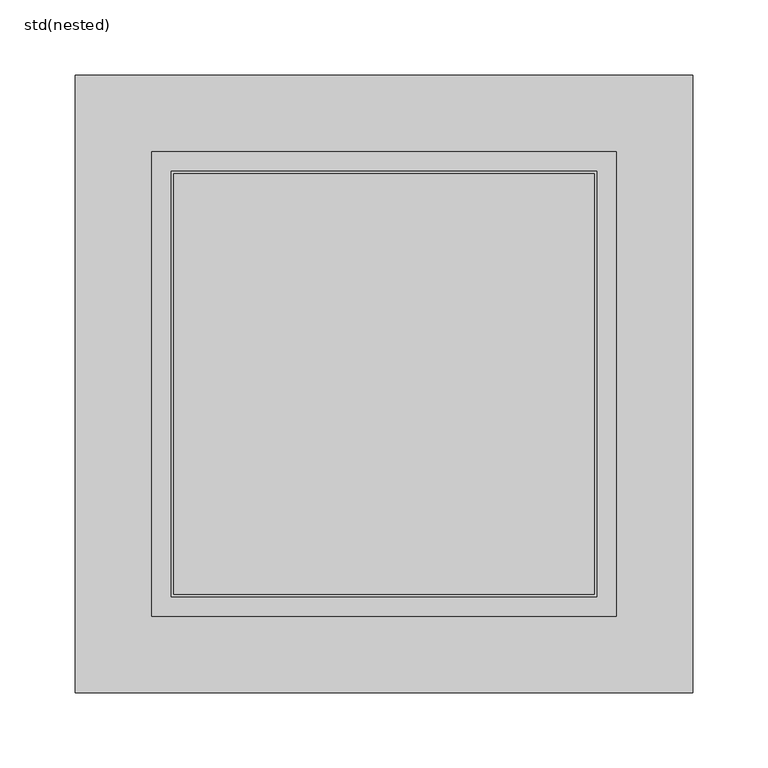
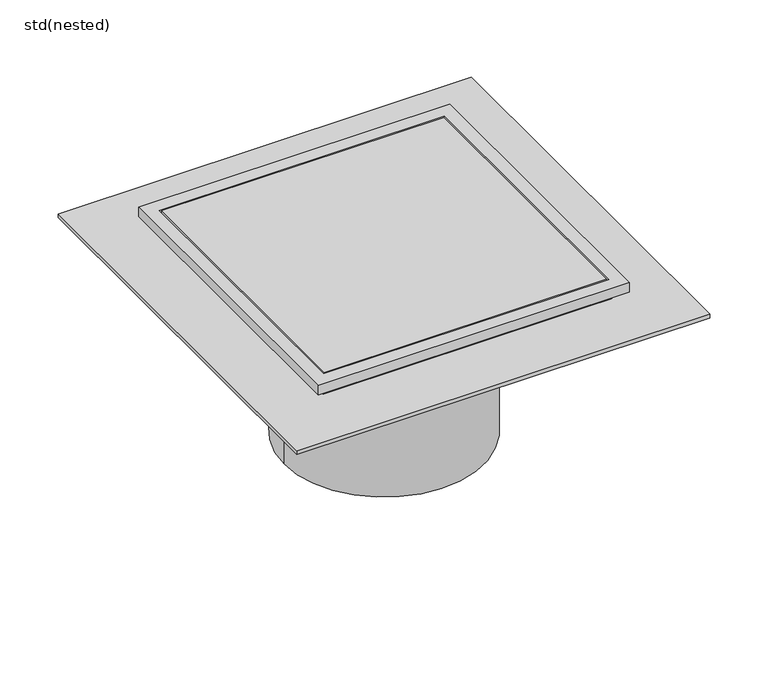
"""IFC4 building model written with IfcOpenShell, lengths in millimetres: sanitary terminal geometry, ZZZ_do not use_PF_ST_WPB_sanded flange slotted gratings for Industrial DN150_CR 218_ACO : std(nested)."""

from ifc_helpers import new_model, si_unit, frame, origin, place, context, project, spatial, polyline, circle_curve, outline, extrude, source, transform, mapped, element, save
from ifc_brep_helpers import plane_surface, cylinder_surface, advanced_brep


def std_nested_c7e06109(model_context):
    return source(origin(), model_context, "Body", "SolidModel", [
        extrude(outline(polyline([(204.5, 204.5), (204.5, -204.5), (-204.5, -204.5), (-204.5, 204.5), (204.5, 204.5)])), frame((0.0, 0.0, -24.0), z_axis=(0.0, 0.0, 1.0), x_axis=(1.0, 0.0, 0.0)), (0.0, 0.0, 1.0), 4.0),
        advanced_brep(
        [(-99.0, 0.0, -195.0), (99.0, 0.0, -195.0), (99.0, 0.0, -73.0), (-99.0, 0.0, -73.0), (-121.0, 0.0, -73.0), (121.0, 0.0, -73.0), (121.0, 0.0, -38.0), (-121.0, 0.0, -38.0), (154.0, 154.0, -10.0), (154.0, 154.0, 0.0), (154.0, -154.0, 0.0), (154.0, -154.0, -10.0), (143.0, 143.0, -38.0), (143.0, 143.0, -10.0), (143.0, -143.0, -10.0), (143.0, -143.0, -38.0), (-154.0, -154.0, 0.0), (-154.0, -154.0, -10.0), (-143.0, -143.0, -10.0), (-143.0, -143.0, -38.0), (-154.0, 154.0, 0.0), (-154.0, 154.0, -10.0), (-143.0, 143.0, -10.0), (-143.0, 143.0, -38.0), (141.0, 141.0, 0.0), (141.0, -141.0, 0.0), (-141.0, -141.0, 0.0), (-141.0, 141.0, 0.0), (141.0, 141.0, -36.0), (141.0, -141.0, -36.0), (-141.0, -141.0, -36.0), (-141.0, 141.0, -36.0), (139.5, -139.5, -36.0), (-139.5, -139.5, -36.0), (-139.5, 139.5, -36.0), (139.5, 139.5, -36.0), (-139.5, -139.5, 0.0), (139.5, -139.5, 0.0), (139.5, 139.5, 0.0), (-139.5, 139.5, 0.0)],
        [
            (0, 1, circle_curve(frame((0.0, 0.0, -195.0), z_axis=(0.0, 0.0, -1.0), x_axis=(1.0, 0.0, 0.0)), 99.0)),
            (1, 0, circle_curve(frame((0.0, 0.0, -195.0), z_axis=(0.0, 0.0, -1.0), x_axis=(1.0, 0.0, 0.0)), 99.0)),
            (1, 2),
            (2, 3, circle_curve(frame((0.0, 0.0, -73.0), z_axis=(0.0, 0.0, -1.0), x_axis=(1.0, 0.0, 0.0)), 99.0)),
            (3, 0),
            (3, 2, circle_curve(frame((0.0, 0.0, -73.0), z_axis=(0.0, 0.0, -1.0), x_axis=(1.0, 0.0, 0.0)), 99.0)),
            (4, 5, circle_curve(frame((0.0, 0.0, -73.0), z_axis=(0.0, 0.0, 1.0), x_axis=(1.0, 0.0, 0.0)), 121.0)),
            (5, 6),
            (6, 7, circle_curve(frame((0.0, 0.0, -38.0), z_axis=(0.0, 0.0, -1.0), x_axis=(1.0, 0.0, 0.0)), 121.0)),
            (7, 4),
            (5, 4, circle_curve(frame((0.0, 0.0, -73.0), z_axis=(0.0, 0.0, 1.0), x_axis=(1.0, 0.0, 0.0)), 121.0)),
            (7, 6, circle_curve(frame((0.0, 0.0, -38.0), z_axis=(0.0, 0.0, -1.0), x_axis=(1.0, 0.0, 0.0)), 121.0)),
            (8, 9),
            (9, 10),
            (10, 11),
            (11, 8),
            (12, 13),
            (13, 14),
            (14, 15),
            (15, 12),
            (10, 16),
            (16, 17),
            (17, 11),
            (14, 18),
            (18, 19),
            (19, 15),
            (16, 20),
            (20, 21),
            (21, 17),
            (18, 22),
            (22, 23),
            (23, 19),
            (9, 20),
            (24, 25),
            (25, 26),
            (26, 27),
            (27, 24),
            (8, 21),
            (13, 22),
            (12, 23),
            (24, 28),
            (28, 29),
            (29, 25),
            (29, 30),
            (30, 26),
            (30, 31),
            (31, 27),
            (28, 31),
            (32, 33),
            (33, 34),
            (34, 35),
            (35, 32),
            (36, 37),
            (37, 38),
            (38, 39),
            (39, 36),
            (36, 33),
            (32, 37),
            (35, 38),
            (34, 39),
        ],
        [
            plane_surface(frame((99.0, 0.0, -195.0), z_axis=(0.0, 0.0, -1.0), x_axis=(0.0, -1.0, 0.0))),
            cylinder_surface(frame((0.0, 0.0, -195.0), z_axis=(0.0, 0.0, 1.0), x_axis=(1.0, 0.0, 0.0)), 99.0),
            cylinder_surface(frame((0.0, 0.0, -73.0), z_axis=(0.0, 0.0, 1.0), x_axis=(1.0, 0.0, 0.0)), 121.0),
            plane_surface(frame((154.0, 154.0, 0.0), z_axis=(1.0, 0.0, 0.0), x_axis=(0.0, -1.0, 0.0))),
            plane_surface(frame((143.0, 143.0, -10.0), z_axis=(1.0, 0.0, 0.0), x_axis=(0.0, -1.0, 0.0))),
            plane_surface(frame((154.0, -154.0, 0.0), z_axis=(0.0, -1.0, 0.0), x_axis=(-1.0, 0.0, 0.0))),
            plane_surface(frame((143.0, -143.0, -10.0), z_axis=(0.0, -1.0, 0.0), x_axis=(-1.0, 0.0, 0.0))),
            plane_surface(frame((-154.0, -154.0, 0.0), z_axis=(-1.0, 0.0, 0.0), x_axis=(0.0, 1.0, 0.0))),
            plane_surface(frame((-143.0, -143.0, -10.0), z_axis=(-1.0, 0.0, 0.0), x_axis=(0.0, 1.0, 0.0))),
            plane_surface(frame((-141.0, 141.0, 0.0), z_axis=(0.0, 0.0, 1.0), x_axis=(1.0, 0.0, 0.0))),
            plane_surface(frame((-154.0, 154.0, 0.0), z_axis=(0.0, 1.0, 0.0), x_axis=(1.0, 0.0, 0.0))),
            plane_surface(frame((-154.0, 154.0, -10.0), z_axis=(0.0, 0.0, -1.0), x_axis=(1.0, 0.0, 0.0))),
            plane_surface(frame((-143.0, 143.0, -10.0), z_axis=(0.0, 1.0, 0.0), x_axis=(1.0, 0.0, 0.0))),
            plane_surface(frame((-143.0, 143.0, -38.0), z_axis=(0.0, 0.0, -1.0), x_axis=(1.0, 0.0, 0.0))),
            plane_surface(frame((121.0, 0.0, -73.0), z_axis=(0.0, 0.0, -1.0), x_axis=(0.0, -1.0, 0.0))),
            plane_surface(frame((141.0, 141.0, -36.0), z_axis=(-1.0, 0.0, 0.0), x_axis=(0.0, -1.0, 0.0))),
            plane_surface(frame((141.0, -141.0, -36.0), z_axis=(0.0, 1.0, 0.0), x_axis=(-1.0, 0.0, 0.0))),
            plane_surface(frame((-141.0, -141.0, -36.0), z_axis=(1.0, 0.0, 0.0), x_axis=(0.0, 1.0, 0.0))),
            plane_surface(frame((0.0, 0.0, -36.0), z_axis=(0.0, 0.0, 1.0), x_axis=(1.0, 0.0, 0.0))),
            plane_surface(frame((-141.0, 141.0, -36.0), z_axis=(0.0, -1.0, 0.0), x_axis=(1.0, 0.0, 0.0))),
            plane_surface(frame((139.5, -139.5, 0.0), z_axis=(0.0, 0.0, 1.0), x_axis=(1.0, 0.0, 0.0))),
            plane_surface(frame((-139.5, -139.5, 0.0), z_axis=(0.0, -1.0, 0.0), x_axis=(0.0, 0.0, -1.0))),
            plane_surface(frame((139.5, -139.5, 0.0), z_axis=(1.0, 0.0, 0.0), x_axis=(0.0, 0.0, -1.0))),
            plane_surface(frame((139.5, 139.5, 0.0), z_axis=(0.0, 1.0, 0.0), x_axis=(0.0, 0.0, -1.0))),
            plane_surface(frame((-139.5, 139.5, 0.0), z_axis=(-1.0, 0.0, 0.0), x_axis=(0.0, 0.0, -1.0))),
        ],
        [
            (0, [[1, 2]]),
            (1, [[-2, 3, 4, 5]]),
            (1, [[-1, -5, 6, -3]]),
            (2, [[7, 8, 9, 10]]),
            (2, [[11, -10, 12, -8]]),
            (3, [[13, 14, 15, 16]]),
            (4, [[17, 18, 19, 20]]),
            (5, [[-15, 21, 22, 23]]),
            (6, [[-19, 24, 25, 26]]),
            (7, [[-22, 27, 28, 29]]),
            (8, [[-25, 30, 31, 32]]),
            (9, [[-14, 33, -27, -21], [34, 35, 36, 37]]),
            (10, [[-13, 38, -28, -33]]),
            (11, [[-16, -23, -29, -38], [-18, 39, -30, -24]]),
            (12, [[-17, 40, -31, -39]]),
            (13, [[-20, -26, -32, -40], [-9, -12]]),
            (14, [[-11, -7], [-4, -6]]),
            (15, [[41, 42, 43, -34]]),
            (16, [[-43, 44, 45, -35]]),
            (17, [[-45, 46, 47, -36]]),
            (18, [[-42, 48, -46, -44], [49, 50, 51, 52]]),
            (19, [[-41, -37, -47, -48]]),
            (20, [[53, 54, 55, 56]]),
            (21, [[-53, 57, -49, 58]]),
            (22, [[-54, -58, -52, 59]]),
            (23, [[-55, -59, -51, 60]]),
            (24, [[-56, -60, -50, -57]]),
        ],
    ),
    ])


if __name__ == "__main__":
    model = new_model("IFC4")
    model_context = context("Model", 3, world=origin())
    ifc_project = project(units=[si_unit("LENGTHUNIT", "METRE", prefix="MILLI")], contexts=[model_context])
    site = spatial("IfcSite", under=ifc_project)
    building = spatial("IfcBuilding", under=site)
    placement = place(None, origin())
    std_nested_shape = std_nested_c7e06109(model_context)
    element("IfcSanitaryTerminal", 1, ObjectType="ZZZ_do not use_PF_ST_WPB_sanded flange slotted gratings for Industrial DN150_CR 218_ACO : std(nested)", at=placement, inside=building, context=model_context, shape_type="MappedRepresentation", body=[
        mapped(std_nested_shape, transform((0.0, 0.0, 0.0), x_axis=(1.0, 0.0, 0.0), y_axis=(0.0, 1.0, 0.0), z_axis=(0.0, 0.0, 1.0))),
    ])
    save(model, "model.ifc")
